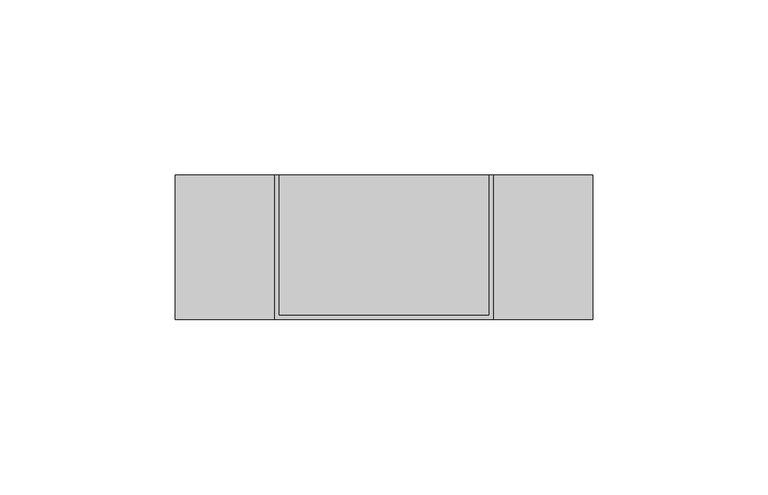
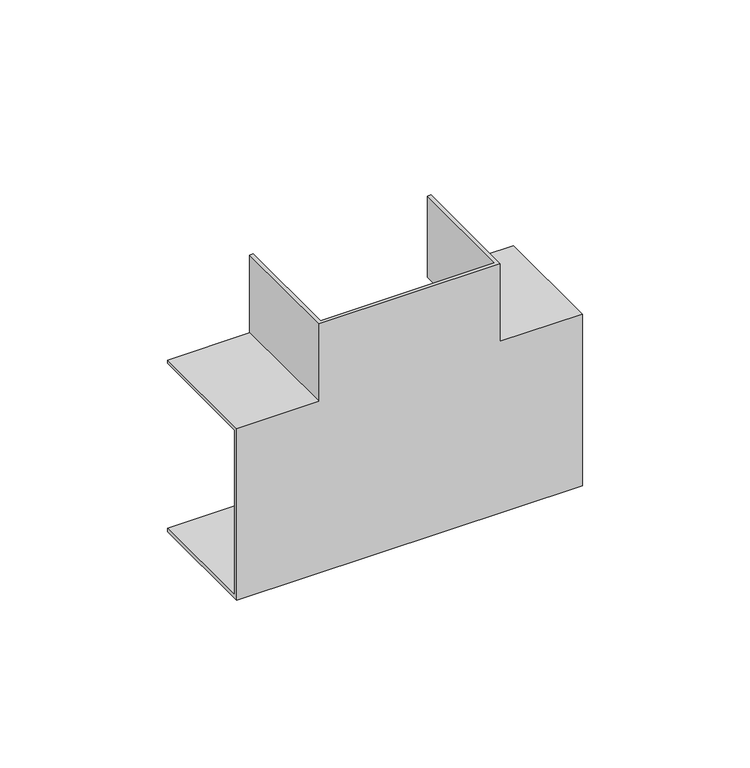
"""IFC4 building model written with IfcOpenShell, lengths in millimetres: proxy geometry, Угол_Т-образный КМТ : Угол Т-образный КМТ 60x40."""

from ifc_helpers import new_model, si_unit, origin, place, context, project, spatial, faceted_brep, source, transform, mapped, element, save


def generic_models_b5faafe0(model_context):
    return source(origin(), model_context, "Body", "Brep", [
        faceted_brep([(-31.2, -41.2, 31.2), (-59.5, -41.2, 31.2), (-59.5, -41.2, -31.2), (59.5, -41.2, -31.2), (59.5, -41.2, 31.2), (31.2, -41.2, 31.2), (31.2, -41.2, 59.5), (-31.2, -41.2, 59.5), (-31.2, 0.0, 31.2), (-31.2, 0.0, 59.5), (-30.0, 0.0, 59.5), (-30.0, 0.0, 30.0), (-59.5, 0.0, 30.0), (-59.5, 0.0, 31.2), (31.2, 0.0, 59.5), (31.2, 0.0, 31.2), (59.5, 0.0, 31.2), (59.5, 0.0, 30.0), (30.0, 0.0, 30.0), (30.0, 0.0, 59.5), (59.5, 0.0, -31.2), (-59.5, 0.0, -31.2), (-59.5, 0.0, -30.0), (-30.0, 0.0, -30.0), (30.0, 0.0, -30.0), (59.5, 0.0, -30.0), (-59.5, -40.0, 30.0), (-59.5, -40.0, -30.0), (59.5, -40.0, -30.0), (59.5, -40.0, 30.0), (30.0, -40.0, 59.5), (-30.0, -40.0, 59.5), (-30.0, -40.0, 30.0), (30.0, -40.0, 30.0)], [[[0, 1, 2, 3, 4, 5, 6, 7]], [[8, 9, 10, 11, 12, 13]], [[14, 15, 16, 17, 18, 19]], [[20, 21, 22, 23, 24, 25]], [[1, 0, 8, 13]], [[2, 1, 13, 12, 26, 27, 22, 21]], [[3, 2, 21, 20]], [[4, 3, 20, 25, 28, 29, 17, 16]], [[5, 4, 16, 15]], [[6, 5, 15, 14]], [[7, 6, 14, 19, 30, 31, 10, 9]], [[0, 7, 9, 8]], [[27, 26, 32, 31, 30, 33, 29, 28]], [[22, 27, 28, 25, 24, 23]], [[26, 12, 11, 32]], [[17, 29, 33, 18]], [[33, 30, 19, 18]], [[31, 32, 11, 10]]]),
    ])


if __name__ == "__main__":
    model = new_model("IFC4")
    model_context = context("Model", 3, world=origin())
    ifc_project = project(units=[si_unit("LENGTHUNIT", "METRE", prefix="MILLI")], contexts=[model_context])
    site = spatial("IfcSite", under=ifc_project)
    building = spatial("IfcBuilding", under=site)
    placement = place(None, origin())
    generic_models_shape = generic_models_b5faafe0(model_context)
    element("IfcBuildingElementProxy", 1, Name="Угол_Т-образный КМТ : Угол Т-образный КМТ 60x40", ObjectType="Угол_Т-образный КМТ : Угол Т-образный КМТ 60x40", at=placement, inside=building, context=model_context, shape_type="MappedRepresentation", body=[
        mapped(generic_models_shape, transform((0.0, 0.0, 0.0), x_axis=(1.0, 0.0, 0.0), y_axis=(0.0, 1.0, 0.0), z_axis=(0.0, 0.0, 1.0))),
    ])
    save(model, "model.ifc")
